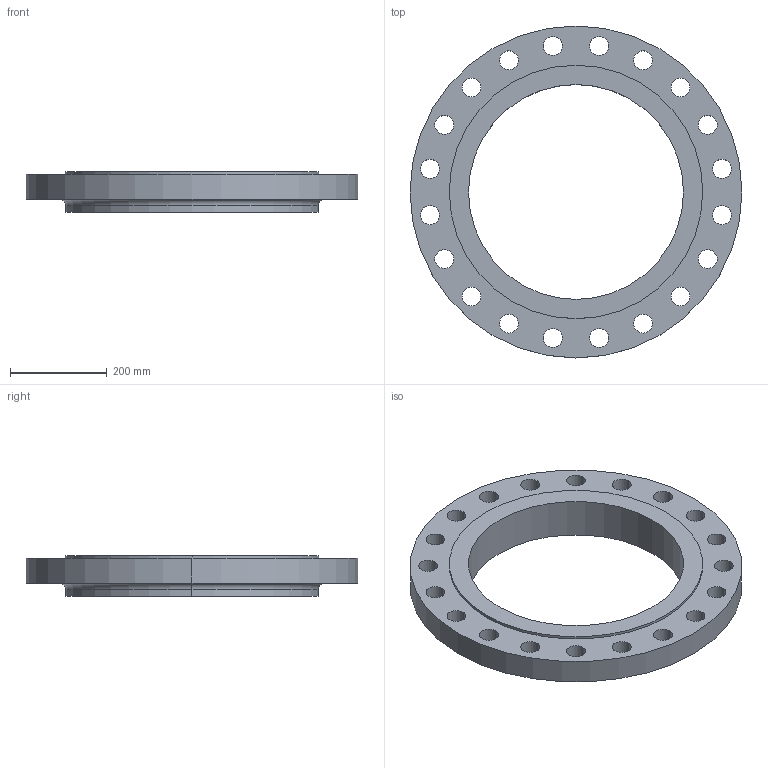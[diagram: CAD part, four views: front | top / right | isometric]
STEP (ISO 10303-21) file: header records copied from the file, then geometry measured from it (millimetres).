
FILE_DESCRIPTION (( 'STEP AP214' ), '1' );
FILE_NAME ('PN40 DN450 Type 13 - Type E Face.STEP', '2018-12-29T02:29:47', ( '' ), ( '' ), 'SwSTEP 2.0', 'SolidWorks 2019', '' );
FILE_SCHEMA (( 'AUTOMOTIVE_DESIGN' ));
Length unit declared in the file: millimetre
Products named in the file (1): PN40 DN450 Type 13 - Type E Face
Bounding box: 685 x 685 x 84 mm (x, y, z)
Volume: 11783015.2 mm3; surface area: 779298.6 mm2
Topology: 1 solids, 1 shells, 54 faces, 148 edges, 98 vertices
Faces by surface type: cylinder 48, plane 4, torus 2
Entity records: 1894 total; most frequent: DIRECTION 358, CARTESIAN_POINT 301, ORIENTED_EDGE 296, AXIS2_PLACEMENT_3D 155, EDGE_CURVE 148, CIRCLE 100, VERTEX_POINT 98, EDGE_LOOP 98
